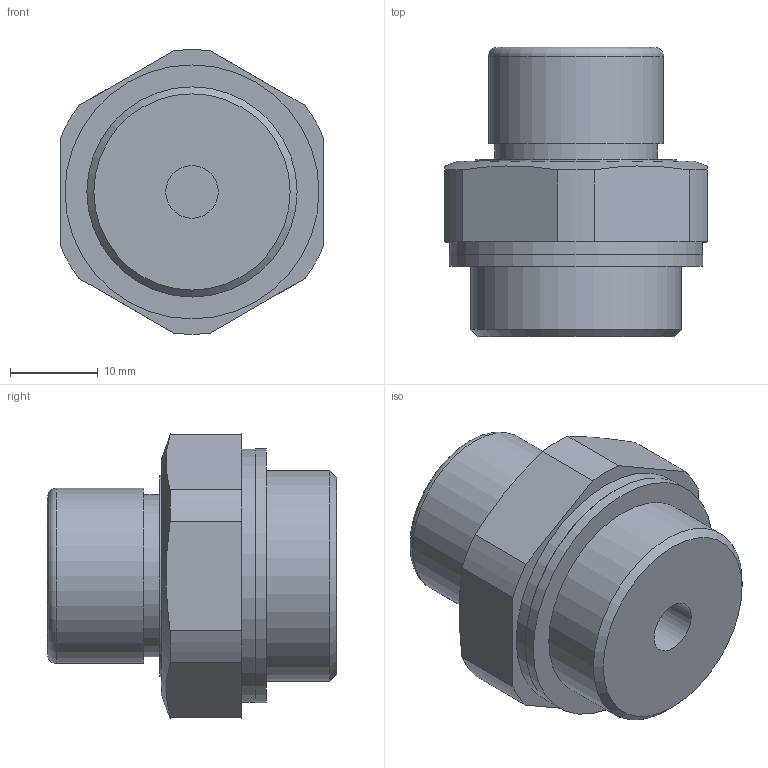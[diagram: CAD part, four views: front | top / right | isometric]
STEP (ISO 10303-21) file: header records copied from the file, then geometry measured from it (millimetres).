
FILE_DESCRIPTION( ( 'STEP AP203' ), '1' );
FILE_NAME( 'C:/Temp/Ganter_Step_05_03_2020/data/3_5/gn882/Breather filters GN 882-M24x1,5-MS-M.stp', '2020-03-12T13:42:42', ( 'License CC BY-ND 4.0' ), ( 'CADENAS' ), ' ', 'PARTsolutions', ' ' );
FILE_SCHEMA( ( 'CONFIG_CONTROL_DESIGN' ) );
Length unit declared in the file: millimetre
Products named in the file (1): _Breather filters GN 882-M24x1,5-MS-M
Bounding box: 30 x 33 x 32.48 mm (x, y, z)
Volume: 15987.8 mm3; surface area: 4402.4 mm2
Topology: 1 solids, 1 shells, 33 faces, 67 edges, 44 vertices
Faces by surface type: plane 16, cylinder 14, cone 2, torus 1
Full cylindrical faces by diameter (mm): 6 x1, 18.5 x1, 19 x1, 20 x1, 23 x1, 24 x1, 28.9 x1, 29 x1
Entity records: 870 total; most frequent: CARTESIAN_POINT 158, DIRECTION 148, ORIENTED_EDGE 110, AXIS2_PLACEMENT_3D 65, EDGE_CURVE 55, EDGE_LOOP 52, VERTEX_POINT 43, FACE_OUTER_BOUND 42
